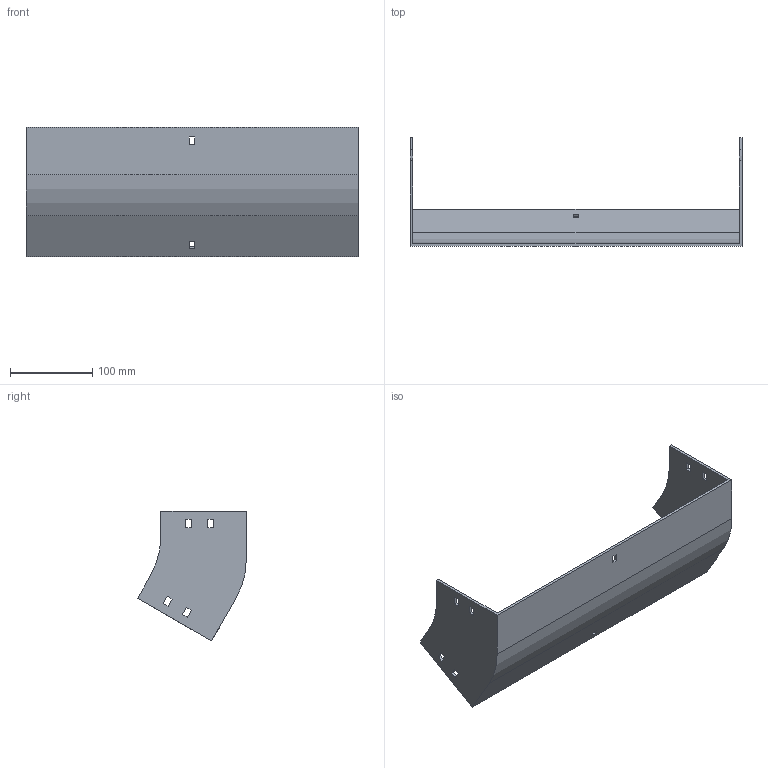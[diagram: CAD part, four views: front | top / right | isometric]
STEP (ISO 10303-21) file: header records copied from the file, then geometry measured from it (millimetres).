
FILE_DESCRIPTION (( 'STEP AP214' ), '1' );
FILE_NAME ('32F1D400.step', '2025-02-21T12:59:34', ( '' ), ( '' ), 'SwSTEP 2.0', 'SolidWorks 2023', '' );
FILE_SCHEMA (( 'AUTOMOTIVE_DESIGN' ));
Length unit declared in the file: millimetre
Products named in the file (1): 32F1D400
Bounding box: 404 x 132.4 x 157.98 mm (x, y, z)
Volume: 332903.3 mm3; surface area: 196427.4 mm2
Topology: 1 solids, 1 shells, 58 faces, 168 edges, 112 vertices
Faces by surface type: plane 54, cylinder 4
Entity records: 1943 total; most frequent: CARTESIAN_POINT 339, ORIENTED_EDGE 336, DIRECTION 294, EDGE_CURVE 168, VECTOR 160, LINE 160, VERTEX_POINT 112, EDGE_LOOP 78
